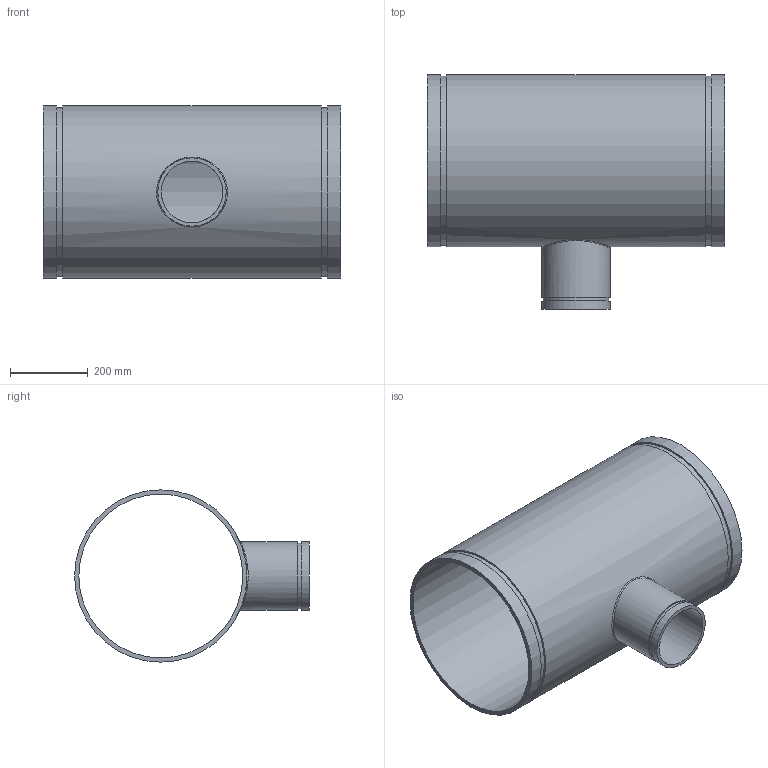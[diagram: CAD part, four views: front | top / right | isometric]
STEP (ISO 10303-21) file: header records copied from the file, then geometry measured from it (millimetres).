
FILE_DESCRIPTION(/* description */ ('VIC REDUCING TEE No 25-C','CAx-IF Rec.Pracs.---Representation and Presentation of Product Manufacturing Information (PMI)---4.0---2014-10-13'),/* implementation_level */ '2;1');
FILE_NAME(/* name */ 'C:\Users\Vjadhav\AppData\Roaming\Autodesk\ApplicationPlugins\Back Up\Victaulic_AWWA_Tee Reducing_No 25-C (DRG)\Victaulic_AWWA_Tee Reducing_No 25-C (DRG)_16.0x06.0 (400x150).stp',/* time_stamp */ '2020-08-18T18:18:13+06:00',/* author */ ('CORINNE GRAY'),/* organization */ ('Victaulic'),/* preprocessor_version */ 'ST-DEVELOPER v17.2',/* originating_system */ 'Autodesk Inventor 2019',/* authorisation */ '');
FILE_SCHEMA (('AP242_MANAGED_MODEL_BASED_3D_ENGINEERING_MIM_LF { 1 0 10303 442 1 1 4 }'));
Length unit declared in the file: inch
Products named in the file (1): 25C-16.0x06.0
Bounding box: 762 x 601.98 x 441.96 mm (x, y, z)
Volume: 11610342.9 mm3; surface area: 2260267.8 mm2
Topology: 1 solids, 1 shells, 20 faces, 44 edges, 33 vertices
Faces by surface type: cylinder 10, plane 9, bspline 1
Full cylindrical faces by diameter (mm): 157.988 x1, 169.062 x1, 175.26 x2, 420.116 x1, 433.4 x2, 441.96 x3
Entity records: 968 total; most frequent: CARTESIAN_POINT 344, DIRECTION 135, ORIENTED_EDGE 90, AXIS2_PLACEMENT_3D 62, EDGE_CURVE 45, VERTEX_POINT 34, EDGE_LOOP 31, CIRCLE 29
